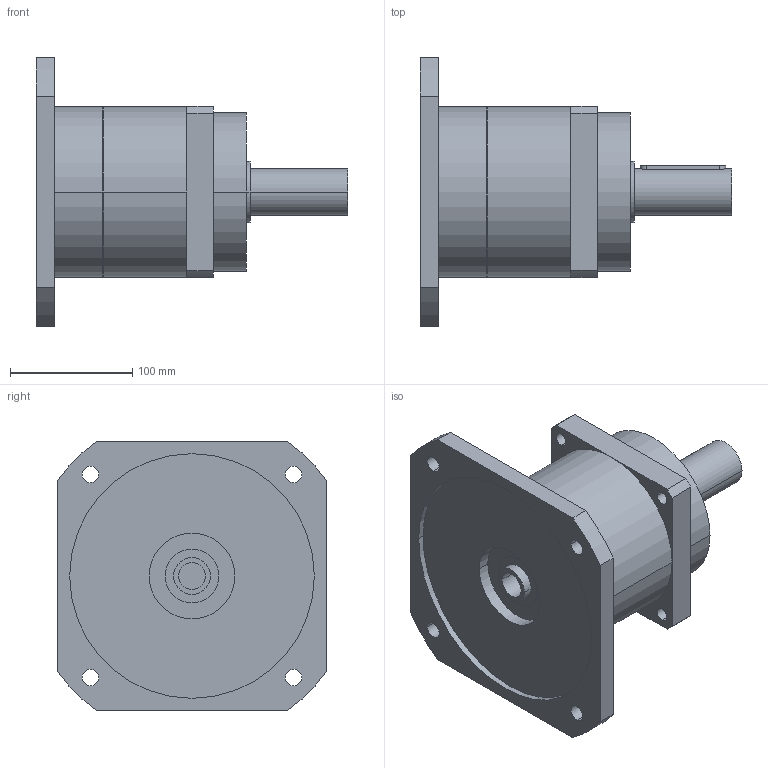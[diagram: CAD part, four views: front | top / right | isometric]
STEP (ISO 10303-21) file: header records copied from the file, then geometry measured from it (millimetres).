
FILE_DESCRIPTION(('CoCreate Modeling STEP Export'),'2;1');
FILE_NAME('GPR150_ig-3-4-5-7_38_B5_22_P12.stp','2014-08-26T15:29:20',(''),(''),'CoCreate Modeling STEP processor for AP214 (Solid Model)','CoCreate Modeling 16.00C 25-Feb-2009 (C) Parametric Technology GmbH','');
FILE_SCHEMA(('AUTOMOTIVE_DESIGN { 1 0 10303 214 1 1 1 1 }'));
Length unit declared in the file: millimetre
Products named in the file (2): GPR150_ig-3-4-5-7_38_B5_22_P12
Assembly tree (1 placements, depth 2):
  GPR150_ig-3-4-5-7_38_B5_22_P12
    GPR150_ig-3-4-5-7_38_B5_22_P12
Bounding box: 255 x 220 x 220 mm (x, y, z)
Volume: 3019773.2 mm3; surface area: 208995.9 mm2
Topology: 1 solids, 1 shells, 81 faces, 218 edges, 148 vertices
Faces by surface type: cylinder 48, plane 27, cone 6
Entity records: 2315 total; most frequent: ORIENTED_EDGE 432, CARTESIAN_POINT 429, DIRECTION 330, EDGE_CURVE 216, VERTEX_POINT 148, AXIS2_PLACEMENT_3D 121, EDGE_LOOP 108, VECTOR 88
